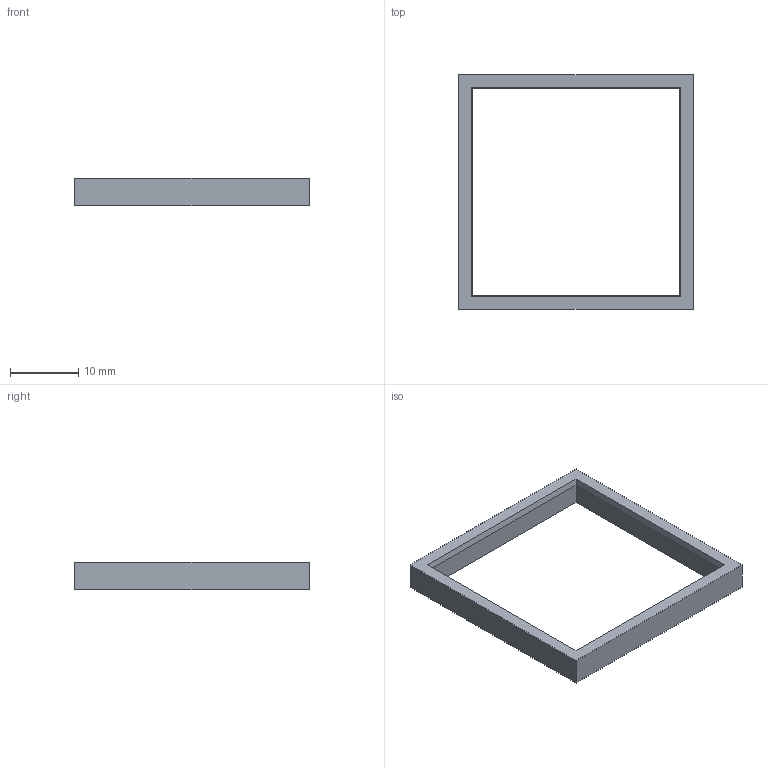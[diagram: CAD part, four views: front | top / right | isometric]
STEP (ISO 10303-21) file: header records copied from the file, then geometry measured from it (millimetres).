
FILE_DESCRIPTION(('Open CASCADE Model'),'2;1');
FILE_NAME('Open CASCADE Shape Model','2026-08-25T22:11:23',('Author'),( 'Open CASCADE'),'Open CASCADE STEP processor 7.8','Open CASCADE 7.8' ,'Unknown');
FILE_SCHEMA(('AUTOMOTIVE_DESIGN { 1 0 10303 214 1 1 1 1 }'));
Length unit declared in the file: millimetre
Products named in the file (1): Open CASCADE STEP translator 7.8 3
Bounding box: 34.3 x 34.3 x 4 mm (x, y, z)
Volume: 1023.7 mm3; surface area: 1531.3 mm2
Topology: 1 solids, 1 shells, 14 faces, 32 edges, 20 vertices
Faces by surface type: plane 10, bspline 4
Entity records: 786 total; most frequent: CARTESIAN_POINT 171, DIRECTION 90, LINE 68, VECTOR 68, ORIENTED_EDGE 64, PCURVE 64, DEFINITIONAL_REPRESENTATION 64, EDGE_CURVE 32
